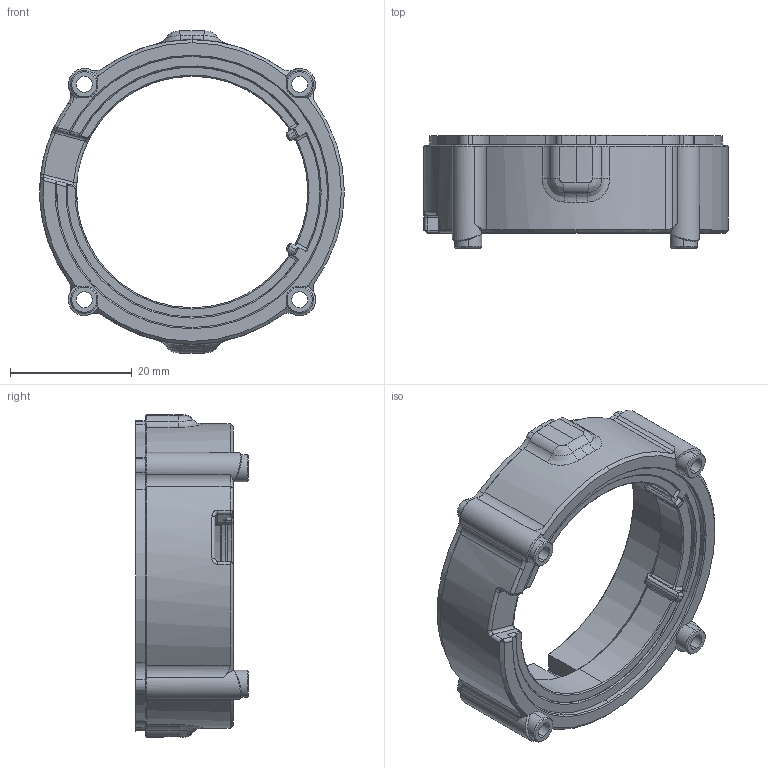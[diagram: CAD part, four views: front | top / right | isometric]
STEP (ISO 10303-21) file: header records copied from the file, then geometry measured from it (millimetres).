
FILE_DESCRIPTION (( 'STEP AP203' ), '1' );
FILE_NAME ('Íâ¿Çv3.2.STEP', '2025-05-03T08:46:44', ( '' ), ( '' ), 'SwSTEP 2.0', 'SolidWorks 2020', '' );
FILE_SCHEMA (( 'CONFIG_CONTROL_DESIGN' ));
Length unit declared in the file: millimetre
Products named in the file (1): 俋褲v3.2
Bounding box: 50 x 18.5 x 53 mm (x, y, z)
Volume: 10403.1 mm3; surface area: 7144.1 mm2
Topology: 1 solids, 1 shells, 300 faces, 785 edges, 483 vertices
Faces by surface type: cylinder 127, cone 79, plane 43, bspline 38, torus 10, sphere 3
Entity records: 13651 total; most frequent: CARTESIAN_POINT 6504, ORIENTED_EDGE 1558, DIRECTION 1425, EDGE_CURVE 779, AXIS2_PLACEMENT_3D 582, VERTEX_POINT 482, CIRCLE 319, EDGE_LOOP 311
